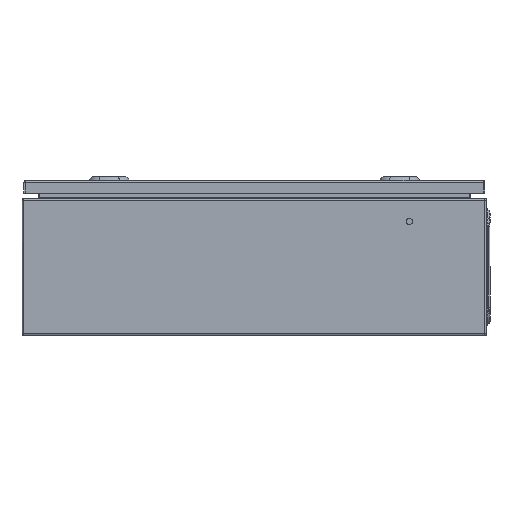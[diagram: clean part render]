
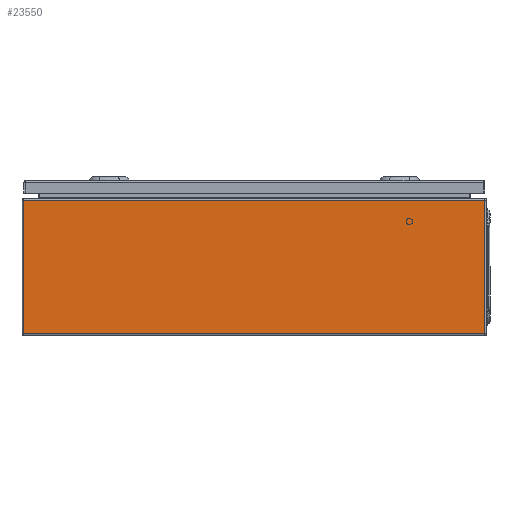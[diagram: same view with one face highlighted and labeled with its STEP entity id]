
A CAD part, left-side view. The second image highlights one B-rep face of the part: STEP entity #23550.
In plain terms, the highlighted planar face has unit normal (-1, 0, 0).
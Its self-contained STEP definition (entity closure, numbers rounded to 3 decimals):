
#102 = VERTEX_POINT ( 'NONE', #14808 ) ;
#1536 = VECTOR ( 'NONE', #3408, 1000. ) ;
#1686 = EDGE_CURVE ( 'NONE', #102, #21388, #12759, .T. ) ;
#3254 = ORIENTED_EDGE ( 'NONE', *, *, #1686, .T. ) ;
#3408 = DIRECTION ( 'NONE',  ( 0., -1., 0. ) ) ;
#4995 = CARTESIAN_POINT ( 'NONE',  ( -200., -297.5, 1.5 ) ) ;
#5065 = CARTESIAN_POINT ( 'NONE',  ( -200., 297.5, 1.5 ) ) ;
#5601 = CARTESIAN_POINT ( 'NONE',  ( -200., 300., 174.5 ) ) ;
#6937 = DIRECTION ( 'NONE',  ( 0., 0., -1. ) ) ;
#8638 = CARTESIAN_POINT ( 'NONE',  ( -200., 297.5, 174.5 ) ) ;
#8683 = EDGE_LOOP ( 'NONE', ( #17532, #15094, #3254, #20584 ) ) ;
#8832 = DIRECTION ( 'NONE',  ( 0., 0., -1. ) ) ;
#9015 = LINE ( 'NONE', #5065, #11270 ) ;
#9813 = EDGE_CURVE ( 'NONE', #15722, #21388, #14968, .T. ) ;
#10836 = VERTEX_POINT ( 'NONE', #22124 ) ;
#11270 = VECTOR ( 'NONE', #6937, 1000. ) ;
#11964 = LINE ( 'NONE', #22341, #23337 ) ;
#12163 = FACE_OUTER_BOUND ( 'NONE', #8683, .T. ) ;
#12626 = CARTESIAN_POINT ( 'NONE',  ( -200., -297.5, 174.5 ) ) ;
#12759 = LINE ( 'NONE', #4995, #16279 ) ;
#12847 = AXIS2_PLACEMENT_3D ( 'NONE', #23963, #19909, #8832 ) ;
#12992 = DIRECTION ( 'NONE',  ( 0., -1., 0. ) ) ;
#14808 = CARTESIAN_POINT ( 'NONE',  ( -200., -297.5, 2.35 ) ) ;
#14968 = LINE ( 'NONE', #5601, #1536 ) ;
#15094 = ORIENTED_EDGE ( 'NONE', *, *, #18810, .T. ) ;
#15722 = VERTEX_POINT ( 'NONE', #8638 ) ;
#16279 = VECTOR ( 'NONE', #23836, 1000. ) ;
#17532 = ORIENTED_EDGE ( 'NONE', *, *, #20222, .T. ) ;
#18810 = EDGE_CURVE ( 'NONE', #10836, #102, #11964, .T. ) ;
#19909 = DIRECTION ( 'NONE',  ( 1., 0., 0. ) ) ;
#20222 = EDGE_CURVE ( 'NONE', #15722, #10836, #9015, .T. ) ;
#20584 = ORIENTED_EDGE ( 'NONE', *, *, #9813, .F. ) ;
#21388 = VERTEX_POINT ( 'NONE', #12626 ) ;
#22124 = CARTESIAN_POINT ( 'NONE',  ( -200., 297.5, 2.35 ) ) ;
#22341 = CARTESIAN_POINT ( 'NONE',  ( -200., -300., 2.35 ) ) ;
#23337 = VECTOR ( 'NONE', #12992, 1000. ) ;
#23550 = ADVANCED_FACE ( 'NONE', ( #12163 ), #23595, .F. ) ;
#23595 = PLANE ( 'NONE',  #12847 ) ;
#23836 = DIRECTION ( 'NONE',  ( 0., 0., 1. ) ) ;
#23963 = CARTESIAN_POINT ( 'NONE',  ( -200., -300., 1.5 ) ) ;
